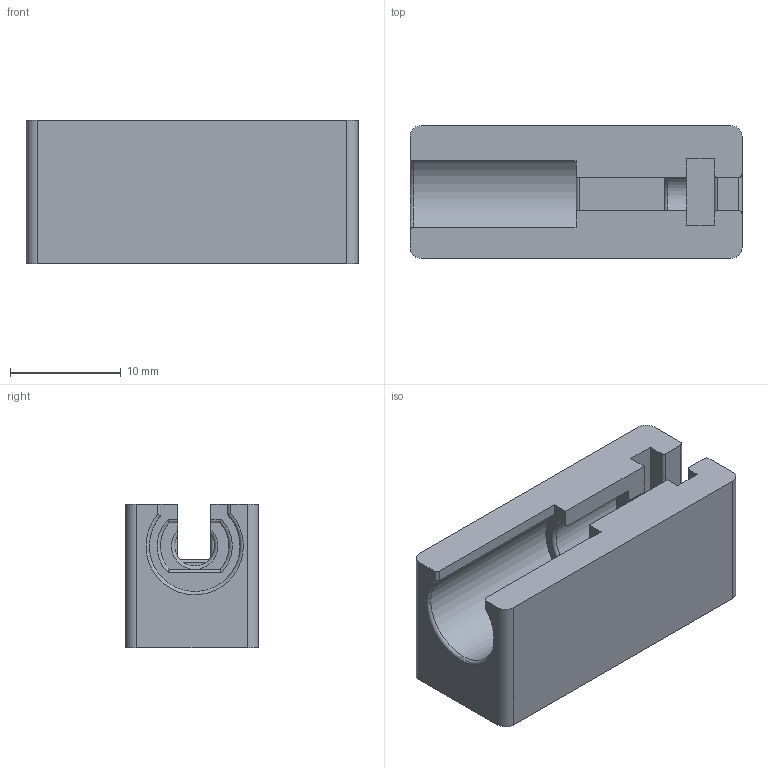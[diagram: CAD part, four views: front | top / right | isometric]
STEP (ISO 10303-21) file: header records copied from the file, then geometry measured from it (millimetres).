
FILE_DESCRIPTION(('CATIA V5 STEP Exchange'),'2;1');
FILE_NAME('C:\Users\Administrator\Desktop\拉线固定块.stp','2022-02-15T07:04:57+00:00',('none'),('none'),'CATIA Version 5 Release 20 GA (IN-10)','CATIA V5 STEP AP214','none');
FILE_SCHEMA(('AUTOMOTIVE_DESIGN { 1 0 10303 214 1 1 1 1 }'));
Length unit declared in the file: millimetre
Products named in the file (1): Part10
Bounding box: 30 x 12 x 13 mm (x, y, z)
Volume: 3399.1 mm3; surface area: 2325.9 mm2
Topology: 1 solids, 1 shells, 59 faces, 154 edges, 100 vertices
Faces by surface type: plane 28, cylinder 27, torus 4
Entity records: 1792 total; most frequent: CARTESIAN_POINT 394, ORIENTED_EDGE 308, DIRECTION 235, EDGE_CURVE 154, VERTEX_POINT 100, AXIS2_PLACEMENT_3D 95, VECTOR 94, LINE 94
